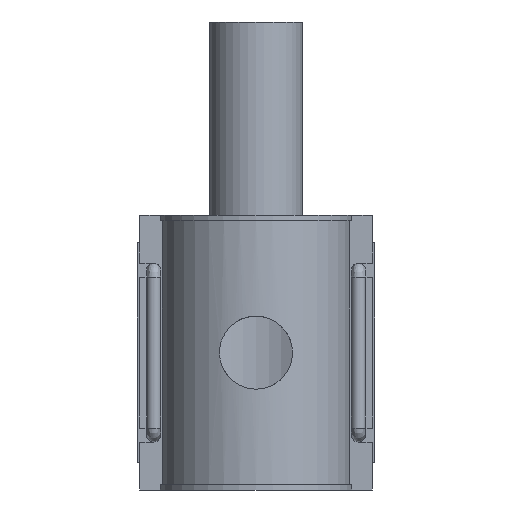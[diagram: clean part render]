
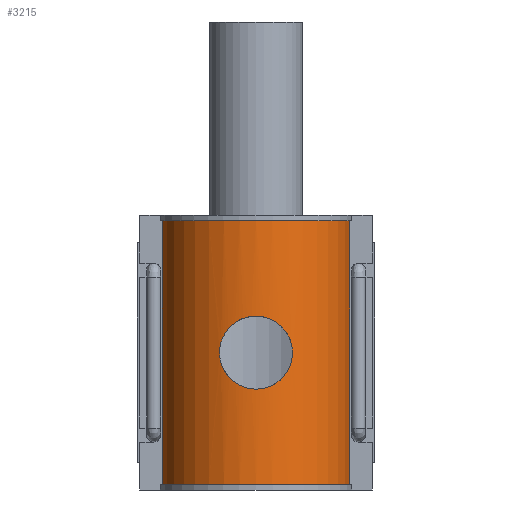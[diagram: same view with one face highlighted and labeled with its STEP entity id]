
A CAD part, front view. The second image highlights one B-rep face of the part: STEP entity #3215.
In plain terms, the highlighted cylindrical face has radius 40.95 mm (diameter 81.9 mm), a partial arc.
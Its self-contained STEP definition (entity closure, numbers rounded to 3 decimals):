
#50=FACE_BOUND('',#438,.T.);
#196=B_SPLINE_CURVE_WITH_KNOTS('',3,(#4772,#4773,#4774,#4775,#4776,#4777,
#4778,#4779,#4780,#4781,#4782,#4783,#4784,#4785,#4786,#4787,#4788,#4789,
#4790,#4791,#4792,#4793,#4794,#4795,#4796,#4797),.UNSPECIFIED.,.F.,.F.,
(4,2,2,2,2,2,2,2,2,2,2,2,4),(0.,0.299,0.598,1.195,
1.792,2.091,2.389,2.688,2.986,
3.583,4.181,4.48,4.779),
 .UNSPECIFIED.);
#197=B_SPLINE_CURVE_WITH_KNOTS('',3,(#4798,#4799,#4800,#4801,#4802,#4803,
#4804,#4805,#4806,#4807,#4808,#4809,#4810,#4811,#4812,#4813,#4814,#4815,
#4816,#4817,#4818,#4819,#4820,#4821,#4822,#4823),.UNSPECIFIED.,.F.,.F.,
(4,2,2,2,2,2,2,2,2,2,2,2,4),(4.779,5.077,5.376,
5.974,6.571,6.869,7.168,7.466,
7.765,8.362,8.959,9.258,9.557),
 .UNSPECIFIED.);
#246=FACE_OUTER_BOUND('',#437,.T.);
#437=EDGE_LOOP('',(#2302,#2303,#2304,#2305));
#438=EDGE_LOOP('',(#2306,#2307));
#640=CIRCLE('',#3425,40.95);
#648=CIRCLE('',#3439,40.95);
#789=LINE('',#5120,#1092);
#824=LINE('',#5344,#1127);
#1092=VECTOR('',#3798,10.);
#1127=VECTOR('',#3875,10.);
#1387=VERTEX_POINT('',#4769);
#1388=VERTEX_POINT('',#4771);
#1404=VERTEX_POINT('',#5105);
#1405=VERTEX_POINT('',#5107);
#1409=VERTEX_POINT('',#5119);
#1426=VERTEX_POINT('',#5162);
#1704=EDGE_CURVE('',#1388,#1387,#196,.T.);
#1705=EDGE_CURVE('',#1387,#1388,#197,.T.);
#1726=EDGE_CURVE('',#1404,#1405,#640,.T.);
#1731=EDGE_CURVE('',#1404,#1409,#789,.T.);
#1753=EDGE_CURVE('',#1426,#1409,#648,.T.);
#1788=EDGE_CURVE('',#1405,#1426,#824,.T.);
#2302=ORIENTED_EDGE('',*,*,#1726,.T.);
#2303=ORIENTED_EDGE('',*,*,#1788,.T.);
#2304=ORIENTED_EDGE('',*,*,#1753,.T.);
#2305=ORIENTED_EDGE('',*,*,#1731,.F.);
#2306=ORIENTED_EDGE('',*,*,#1704,.T.);
#2307=ORIENTED_EDGE('',*,*,#1705,.T.);
#3158=CYLINDRICAL_SURFACE('',#3449,40.95);
#3215=ADVANCED_FACE('',(#246,#50),#3158,.T.);
#3425=AXIS2_PLACEMENT_3D('',#5109,#3788,#3789);
#3439=AXIS2_PLACEMENT_3D('',#5163,#3835,#3836);
#3449=AXIS2_PLACEMENT_3D('',#5345,#3876,#3877);
#3788=DIRECTION('center_axis',(0.,0.,1.));
#3789=DIRECTION('ref_axis',(1.,0.,0.));
#3798=DIRECTION('',(0.,0.,1.));
#3835=DIRECTION('center_axis',(0.,0.,-1.));
#3836=DIRECTION('ref_axis',(1.,0.,0.));
#3875=DIRECTION('',(0.,0.,1.));
#3876=DIRECTION('center_axis',(0.,0.,1.));
#3877=DIRECTION('ref_axis',(1.,0.,0.));
#4769=CARTESIAN_POINT('',(-15.68,-37.829,0.));
#4771=CARTESIAN_POINT('',(15.68,-37.829,0.));
#4772=CARTESIAN_POINT('Ctrl Pts',(15.68,-37.829,0.));
#4773=CARTESIAN_POINT('Ctrl Pts',(15.68,-37.829,-0.996));
#4774=CARTESIAN_POINT('Ctrl Pts',(15.584,-37.87,-2.022));
#4775=CARTESIAN_POINT('Ctrl Pts',(15.182,-38.032,-4.056));
#4776=CARTESIAN_POINT('Ctrl Pts',(14.876,-38.155,-5.065));
#4777=CARTESIAN_POINT('Ctrl Pts',(13.672,-38.61,-7.957));
#4778=CARTESIAN_POINT('Ctrl Pts',(12.469,-39.032,-9.706));
#4779=CARTESIAN_POINT('Ctrl Pts',(9.707,-39.809,-12.468));
#4780=CARTESIAN_POINT('Ctrl Pts',(7.957,-40.217,-13.671));
#4781=CARTESIAN_POINT('Ctrl Pts',(5.064,-40.647,-14.876));
#4782=CARTESIAN_POINT('Ctrl Pts',(4.056,-40.761,-15.182));
#4783=CARTESIAN_POINT('Ctrl Pts',(2.021,-40.913,-15.584));
#4784=CARTESIAN_POINT('Ctrl Pts',(0.995,-40.95,-15.68));
#4785=CARTESIAN_POINT('Ctrl Pts',(-0.995,-40.95,-15.68));
#4786=CARTESIAN_POINT('Ctrl Pts',(-2.021,-40.913,-15.584));
#4787=CARTESIAN_POINT('Ctrl Pts',(-4.056,-40.761,-15.182));
#4788=CARTESIAN_POINT('Ctrl Pts',(-5.064,-40.647,-14.876));
#4789=CARTESIAN_POINT('Ctrl Pts',(-7.957,-40.217,-13.671));
#4790=CARTESIAN_POINT('Ctrl Pts',(-9.707,-39.809,-12.468));
#4791=CARTESIAN_POINT('Ctrl Pts',(-12.469,-39.032,-9.706));
#4792=CARTESIAN_POINT('Ctrl Pts',(-13.672,-38.61,-7.957));
#4793=CARTESIAN_POINT('Ctrl Pts',(-14.876,-38.155,-5.065));
#4794=CARTESIAN_POINT('Ctrl Pts',(-15.182,-38.032,-4.056));
#4795=CARTESIAN_POINT('Ctrl Pts',(-15.584,-37.87,-2.022));
#4796=CARTESIAN_POINT('Ctrl Pts',(-15.68,-37.829,-0.996));
#4797=CARTESIAN_POINT('Ctrl Pts',(-15.68,-37.829,0.));
#4798=CARTESIAN_POINT('Ctrl Pts',(-15.68,-37.829,0.));
#4799=CARTESIAN_POINT('Ctrl Pts',(-15.68,-37.829,0.996));
#4800=CARTESIAN_POINT('Ctrl Pts',(-15.584,-37.87,2.022));
#4801=CARTESIAN_POINT('Ctrl Pts',(-15.182,-38.032,4.056));
#4802=CARTESIAN_POINT('Ctrl Pts',(-14.876,-38.155,5.065));
#4803=CARTESIAN_POINT('Ctrl Pts',(-13.672,-38.61,7.957));
#4804=CARTESIAN_POINT('Ctrl Pts',(-12.469,-39.032,9.706));
#4805=CARTESIAN_POINT('Ctrl Pts',(-9.707,-39.809,12.468));
#4806=CARTESIAN_POINT('Ctrl Pts',(-7.957,-40.217,13.671));
#4807=CARTESIAN_POINT('Ctrl Pts',(-5.064,-40.647,14.876));
#4808=CARTESIAN_POINT('Ctrl Pts',(-4.056,-40.761,15.182));
#4809=CARTESIAN_POINT('Ctrl Pts',(-2.021,-40.913,15.584));
#4810=CARTESIAN_POINT('Ctrl Pts',(-0.995,-40.95,15.68));
#4811=CARTESIAN_POINT('Ctrl Pts',(0.995,-40.95,15.68));
#4812=CARTESIAN_POINT('Ctrl Pts',(2.021,-40.913,15.584));
#4813=CARTESIAN_POINT('Ctrl Pts',(4.056,-40.761,15.182));
#4814=CARTESIAN_POINT('Ctrl Pts',(5.064,-40.647,14.876));
#4815=CARTESIAN_POINT('Ctrl Pts',(7.957,-40.217,13.671));
#4816=CARTESIAN_POINT('Ctrl Pts',(9.707,-39.809,12.468));
#4817=CARTESIAN_POINT('Ctrl Pts',(12.469,-39.032,9.706));
#4818=CARTESIAN_POINT('Ctrl Pts',(13.672,-38.61,7.957));
#4819=CARTESIAN_POINT('Ctrl Pts',(14.876,-38.155,5.065));
#4820=CARTESIAN_POINT('Ctrl Pts',(15.182,-38.032,4.056));
#4821=CARTESIAN_POINT('Ctrl Pts',(15.584,-37.87,2.022));
#4822=CARTESIAN_POINT('Ctrl Pts',(15.68,-37.829,0.996));
#4823=CARTESIAN_POINT('Ctrl Pts',(15.68,-37.829,0.));
#5105=CARTESIAN_POINT('',(-40.186,-7.875,-56.64));
#5107=CARTESIAN_POINT('',(40.186,-7.875,-56.64));
#5109=CARTESIAN_POINT('Origin',(0.,0.,-56.64));
#5119=CARTESIAN_POINT('',(-40.186,-7.875,56.64));
#5120=CARTESIAN_POINT('',(-40.186,-7.875,0.));
#5162=CARTESIAN_POINT('',(40.186,-7.875,56.64));
#5163=CARTESIAN_POINT('Origin',(0.,0.,56.64));
#5344=CARTESIAN_POINT('',(40.186,-7.875,0.));
#5345=CARTESIAN_POINT('Origin',(0.,0.,0.));
